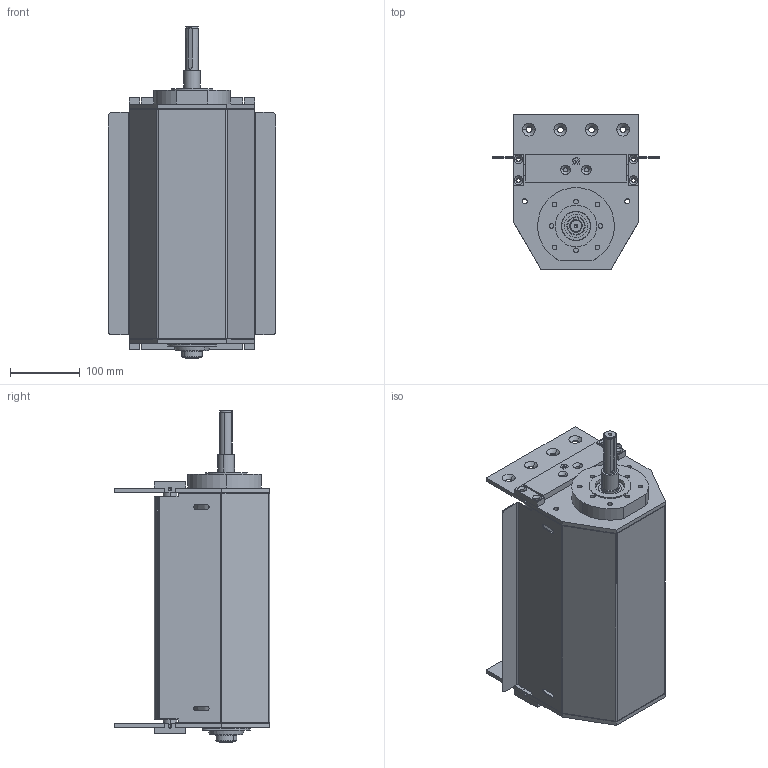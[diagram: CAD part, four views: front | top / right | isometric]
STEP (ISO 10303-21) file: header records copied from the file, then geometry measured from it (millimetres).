
FILE_DESCRIPTION (( 'STEP AP203' ), '1' );
FILE_NAME ('084.050.KCS.44.300.STEP', '2019-07-30T07:57:10', ( '' ), ( '' ), 'SwSTEP 2.0', 'SolidWorks 2018', '' );
FILE_SCHEMA (( 'CONFIG_CONTROL_DESIGN' ));
Length unit declared in the file: millimetre
Products named in the file (15): 084.802.004-1; 084.817.018; 084.817.019; 084.810.003; 084.817.020; 084.802.010; 084.812.003; CUSCINETTI A SFERE_6004-2RS; 084.050.KCS.44.300; 084.802.003; 084.817.017_Default<A macchina>; 084.802.012_Solo centrale; 084.814.002-1; 084.802.021; 084.802.020
Assembly tree (25 placements, depth 2):
  084.050.KCS.44.300
    084.817.017_Default<A macchina>
    084.817.018
    084.802.010
    084.802.021
    084.814.002-1
    084.810.003  x2
    084.802.004-1  x4
    084.802.020
    084.812.003
    084.802.003  x2
    084.802.012_Solo centrale  x2
    084.817.019  x2
    084.817.020  x2
    CUSCINETTI A SFERE_6004-2RS  x4
Bounding box: 240 x 223 x 476 mm (x, y, z)
Volume: 2463126.1 mm3; surface area: 1184638.9 mm2
Topology: 27 solids, 27 shells, 982 faces, 2438 edges, 1567 vertices
Faces by surface type: plane 419, cylinder 347, cone 138, torus 68, sphere 10
Entity records: 20699 total; most frequent: DIRECTION 3480, CARTESIAN_POINT 3288, ORIENTED_EDGE 3056, EDGE_CURVE 1528, AXIS2_PLACEMENT_3D 1324, VERTEX_POINT 984, LINE 832, VECTOR 832
